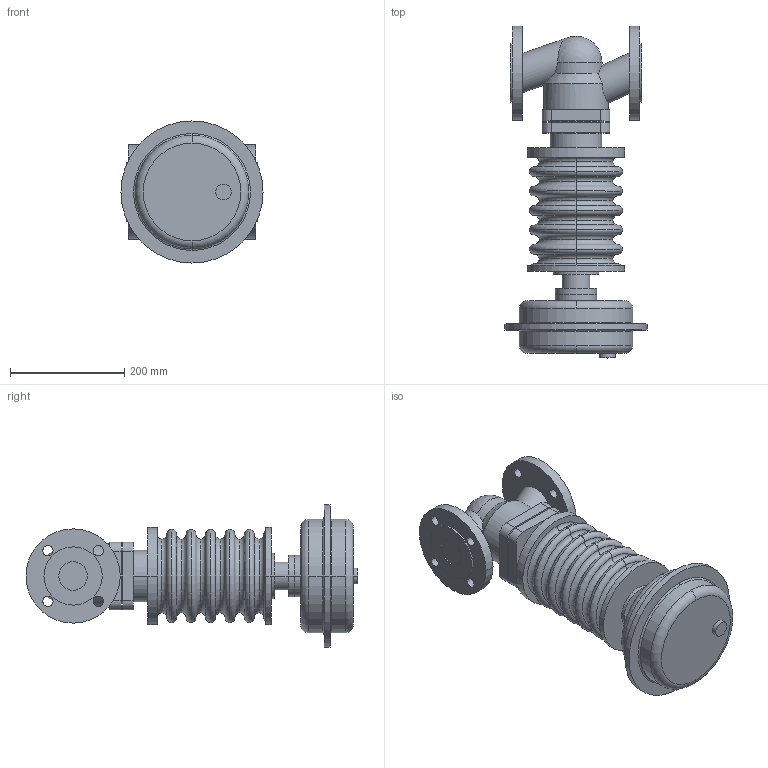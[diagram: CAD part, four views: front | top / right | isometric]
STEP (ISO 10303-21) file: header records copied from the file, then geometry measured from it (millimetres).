
FILE_DESCRIPTION( ( '' ), '1' );
FILE_NAME( 'F:/DE-SHS/TB/OR/04-Sonstiges/daten/files_3d/PREDU/PREDU-PN16-DMA250/c000005356.stp', '2014-06-03T11:13:01', ( '' ), ( '' ), ' ', ' ', ' ' );
FILE_SCHEMA( ( 'CONFIG_CONTROL_DESIGN' ) );
Length unit declared in the file: millimetre
Products named in the file (2): 1; 2
Bounding box: 249 x 581.5 x 249 mm (x, y, z)
Volume: 9702339.5 mm3; surface area: 572080.3 mm2
Topology: 2 solids, 2 shells, 173 faces, 414 edges, 266 vertices
Faces by surface type: cylinder 68, torus 54, plane 48, cone 2, sphere 1
Entity records: 5724 total; most frequent: CARTESIAN_POINT 1354, DIRECTION 1021, ORIENTED_EDGE 824, AXIS2_PLACEMENT_3D 448, EDGE_CURVE 412, CIRCLE 267, VERTEX_POINT 266, EDGE_LOOP 212
